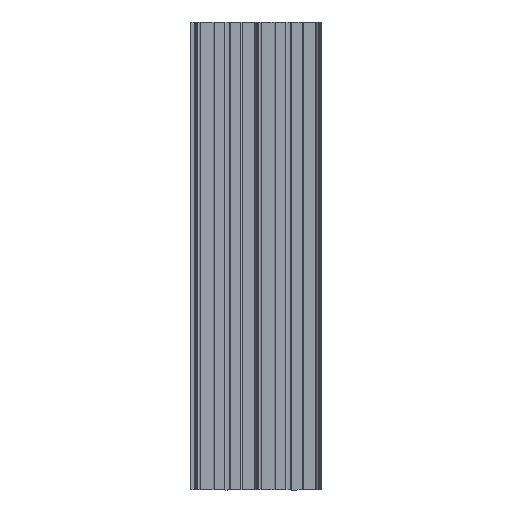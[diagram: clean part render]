
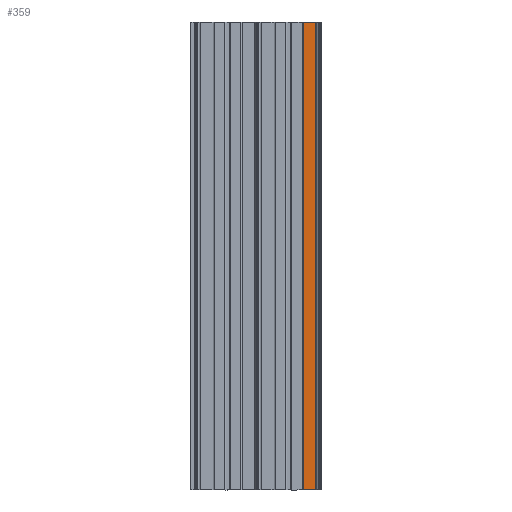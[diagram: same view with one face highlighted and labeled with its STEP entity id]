
A CAD part, front view. The second image highlights one B-rep face of the part: STEP entity #359.
In plain terms, the highlighted planar face has unit normal (0, -1, 0).
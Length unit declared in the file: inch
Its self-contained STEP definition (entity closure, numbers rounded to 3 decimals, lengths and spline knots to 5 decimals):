
#4 = LINE ( 'NONE', #2027, #2289 ) ;
#13 = EDGE_CURVE ( 'NONE', #1033, #2096, #1786, .T. ) ;
#23 = DIRECTION ( 'NONE',  ( 0., 0., 1. ) ) ;
#111 = VECTOR ( 'NONE', #1773, 39.37008 ) ;
#134 = CARTESIAN_POINT ( 'NONE',  ( 7.59637, -0.02, -78.74016 ) ) ;
#163 = EDGE_CURVE ( 'NONE', #1033, #2002, #1372, .T. ) ;
#181 = VECTOR ( 'NONE', #2599, 39.37008 ) ;
#261 = CARTESIAN_POINT ( 'NONE',  ( 9.69321, -0.02, -78.74016 ) ) ;
#359 = ADVANCED_FACE ( 'NONE', ( #951 ), #1883, .T. ) ;
#696 = LINE ( 'NONE', #1349, #111 ) ;
#951 = FACE_OUTER_BOUND ( 'NONE', #1421, .T. ) ;
#968 = CARTESIAN_POINT ( 'NONE',  ( 9.69321, -0.02, -78.74016 ) ) ;
#977 = DIRECTION ( 'NONE',  ( 1., 0., 0. ) ) ;
#1033 = VERTEX_POINT ( 'NONE', #134 ) ;
#1193 = VECTOR ( 'NONE', #977, 39.37008 ) ;
#1349 = CARTESIAN_POINT ( 'NONE',  ( 9.69321, -0.02, 0. ) ) ;
#1372 = LINE ( 'NONE', #2651, #181 ) ;
#1421 = EDGE_LOOP ( 'NONE', ( #2232, #2741, #2408, #1492 ) ) ;
#1435 = CARTESIAN_POINT ( 'NONE',  ( 9.69321, -0.02, -78.74016 ) ) ;
#1492 = ORIENTED_EDGE ( 'NONE', *, *, #2339, .T. ) ;
#1773 = DIRECTION ( 'NONE',  ( 1., 0., 0. ) ) ;
#1786 = LINE ( 'NONE', #261, #1193 ) ;
#1883 = PLANE ( 'NONE',  #2435 ) ;
#1955 = CARTESIAN_POINT ( 'NONE',  ( 9.69321, -0.02, 0. ) ) ;
#2002 = VERTEX_POINT ( 'NONE', #2247 ) ;
#2027 = CARTESIAN_POINT ( 'NONE',  ( 9.69321, -0.02, -78.74016 ) ) ;
#2091 = EDGE_CURVE ( 'NONE', #2002, #2775, #696, .T. ) ;
#2096 = VERTEX_POINT ( 'NONE', #968 ) ;
#2232 = ORIENTED_EDGE ( 'NONE', *, *, #2091, .F. ) ;
#2247 = CARTESIAN_POINT ( 'NONE',  ( 7.59637, -0.02, 0. ) ) ;
#2289 = VECTOR ( 'NONE', #23, 39.37008 ) ;
#2339 = EDGE_CURVE ( 'NONE', #2096, #2775, #4, .T. ) ;
#2408 = ORIENTED_EDGE ( 'NONE', *, *, #13, .T. ) ;
#2435 = AXIS2_PLACEMENT_3D ( 'NONE', #1435, #2818, #2524 ) ;
#2524 = DIRECTION ( 'NONE',  ( 1., 0., 0. ) ) ;
#2599 = DIRECTION ( 'NONE',  ( 0., 0., 1. ) ) ;
#2651 = CARTESIAN_POINT ( 'NONE',  ( 7.59637, -0.02, -78.74016 ) ) ;
#2741 = ORIENTED_EDGE ( 'NONE', *, *, #163, .F. ) ;
#2775 = VERTEX_POINT ( 'NONE', #1955 ) ;
#2818 = DIRECTION ( 'NONE',  ( 0., -1., 0. ) ) ;
